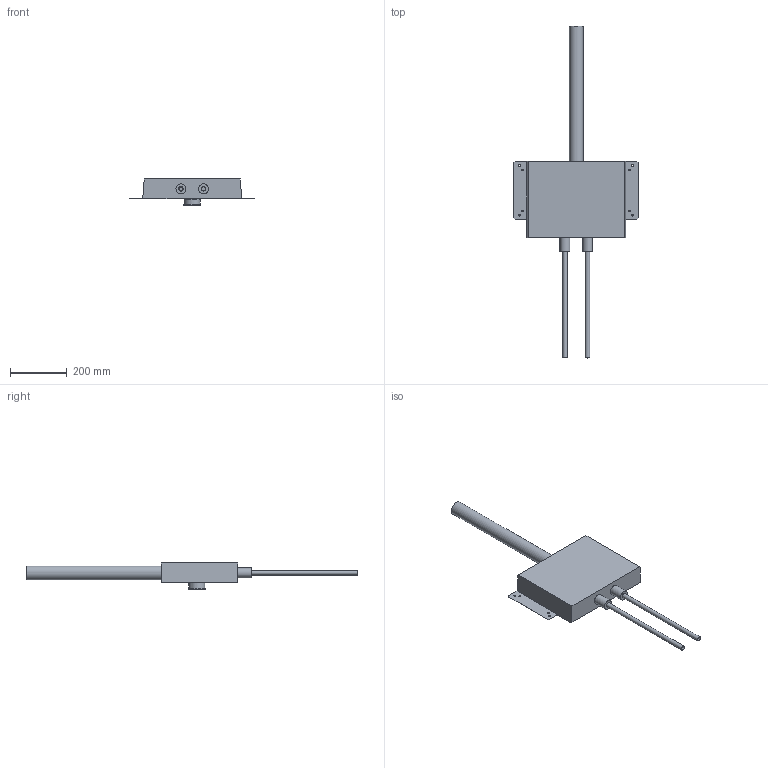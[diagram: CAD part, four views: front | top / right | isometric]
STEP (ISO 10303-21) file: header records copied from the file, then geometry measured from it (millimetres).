
FILE_DESCRIPTION(/* description */ (''),/* implementation_level */ '2;1');
FILE_NAME(/* name */ '\\lg50011\SANHA_LEGNICA\Engineering\Public\PROJEKTY\SANHA-BOX_Support_BiR\002-Rysunki_Boxów\325WTTO16\325WTTO16_150.stp',/* time_stamp */ '2018-12-18T14:02:38+01:00',/* author */ ('grzegorz.juzak'),/* organization */ (''),/* preprocessor_version */ 'ST-DEVELOPER v17',/* originating_system */ 'Autodesk Inventor 2019',/* authorisation */ '');
FILE_SCHEMA (('AUTOMOTIVE_DESIGN { 1 0 10303 214 3 1 1 }'));
Length unit declared in the file: millimetre
Products named in the file (6): 325WTTO16_150; 325WTTO16_150_1; Kolano_DN50-OD50_Master3; Rura_50; Rura_16x2; KSBMPDW1
Assembly tree (7 placements, depth 2):
  325WTTO16_150
    325WTTO16_150_1
    Kolano_DN50-OD50_Master3
    Rura_50
    Rura_16x2  x2
    KSBMPDW1  x2
Bounding box: 440.22 x 1174.45 x 92.27 mm (x, y, z)
Volume: 7030991.3 mm3; surface area: 592501.1 mm2
Topology: 7 solids, 7 shells, 152 faces, 359 edges, 242 vertices
Faces by surface type: plane 103, cylinder 30, bspline 16, cone 3
Full cylindrical faces by diameter (mm): 6.1 x4, 7 x4, 14 x2, 16 x4, 18.631 x2, 21 x2, 30 x1, 35 x2, 35.993 x1, 48.5 x1, 50 x1, 52.269 x1, 54 x1, 55 x2, 58 x1, 60 x1
Entity records: 4319 total; most frequent: CARTESIAN_POINT 898, ORIENTED_EDGE 646, DIRECTION 619, EDGE_CURVE 323, LINE 229, VECTOR 229, VERTEX_POINT 218, AXIS2_PLACEMENT_3D 195
